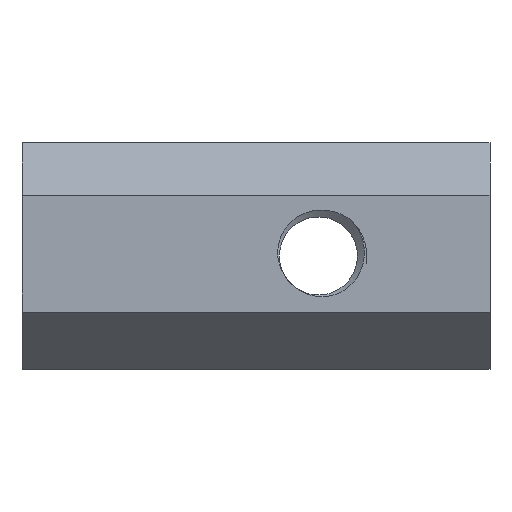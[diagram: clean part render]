
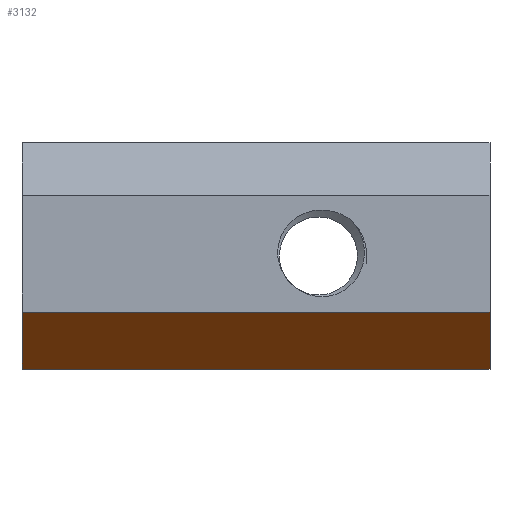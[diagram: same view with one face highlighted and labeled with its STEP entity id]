
A CAD part, front view. The second image highlights one B-rep face of the part: STEP entity #3132.
In plain terms, the highlighted planar face has unit normal (0, -0.674, -0.739).
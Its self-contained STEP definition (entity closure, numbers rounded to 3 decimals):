
#37 = CARTESIAN_POINT ( 'NONE',  ( -0.001, 0., -3.6 ) ) ;
#48 = ORIENTED_EDGE ( 'NONE', *, *, #1719, .F. ) ;
#279 = CARTESIAN_POINT ( 'NONE',  ( -0.001, 4., -7.25 ) ) ;
#478 = LINE ( 'NONE', #37, #4026 ) ;
#544 = FACE_OUTER_BOUND ( 'NONE', #2697, .T. ) ;
#611 = DIRECTION ( 'NONE',  ( 0., 0.739, -0.674 ) ) ;
#714 = LINE ( 'NONE', #279, #3121 ) ;
#715 = DIRECTION ( 'NONE',  ( 0., -0.739, 0.674 ) ) ;
#730 = VECTOR ( 'NONE', #611, 1000. ) ;
#779 = EDGE_CURVE ( 'NONE', #2855, #2054, #1502, .T. ) ;
#1054 = CARTESIAN_POINT ( 'NONE',  ( 0., 4., -7.25 ) ) ;
#1134 = DIRECTION ( 'NONE',  ( 0., -0.739, 0.674 ) ) ;
#1163 = DIRECTION ( 'NONE',  ( 0., 0.674, 0.739 ) ) ;
#1320 = ORIENTED_EDGE ( 'NONE', *, *, #2232, .T. ) ;
#1502 = LINE ( 'NONE', #1054, #730 ) ;
#1580 = CARTESIAN_POINT ( 'NONE',  ( 30., 4., -7.25 ) ) ;
#1610 = CARTESIAN_POINT ( 'NONE',  ( -0.001, 4., -7.25 ) ) ;
#1719 = EDGE_CURVE ( 'NONE', #2855, #4090, #478, .T. ) ;
#1895 = EDGE_CURVE ( 'NONE', #2054, #4140, #714, .T. ) ;
#2018 = LINE ( 'NONE', #1580, #2375 ) ;
#2054 = VERTEX_POINT ( 'NONE', #2077 ) ;
#2077 = CARTESIAN_POINT ( 'NONE',  ( 0., 4., -7.25 ) ) ;
#2108 = CARTESIAN_POINT ( 'NONE',  ( 30., 4., -7.25 ) ) ;
#2232 = EDGE_CURVE ( 'NONE', #4140, #4090, #2018, .T. ) ;
#2350 = CARTESIAN_POINT ( 'NONE',  ( 30., 0., -3.6 ) ) ;
#2375 = VECTOR ( 'NONE', #1134, 1000. ) ;
#2441 = ORIENTED_EDGE ( 'NONE', *, *, #1895, .T. ) ;
#2697 = EDGE_LOOP ( 'NONE', ( #3112, #2441, #1320, #48 ) ) ;
#2855 = VERTEX_POINT ( 'NONE', #2879 ) ;
#2879 = CARTESIAN_POINT ( 'NONE',  ( 0., 0., -3.6 ) ) ;
#2882 = AXIS2_PLACEMENT_3D ( 'NONE', #1610, #1163, #715 ) ;
#3112 = ORIENTED_EDGE ( 'NONE', *, *, #779, .T. ) ;
#3121 = VECTOR ( 'NONE', #4137, 1000. ) ;
#3132 = ADVANCED_FACE ( 'NONE', ( #544 ), #3361, .F. ) ;
#3361 = PLANE ( 'NONE',  #2882 ) ;
#3897 = DIRECTION ( 'NONE',  ( 1., 0., 0. ) ) ;
#4026 = VECTOR ( 'NONE', #3897, 1000. ) ;
#4090 = VERTEX_POINT ( 'NONE', #2350 ) ;
#4137 = DIRECTION ( 'NONE',  ( 1., 0., 0. ) ) ;
#4140 = VERTEX_POINT ( 'NONE', #2108 ) ;
